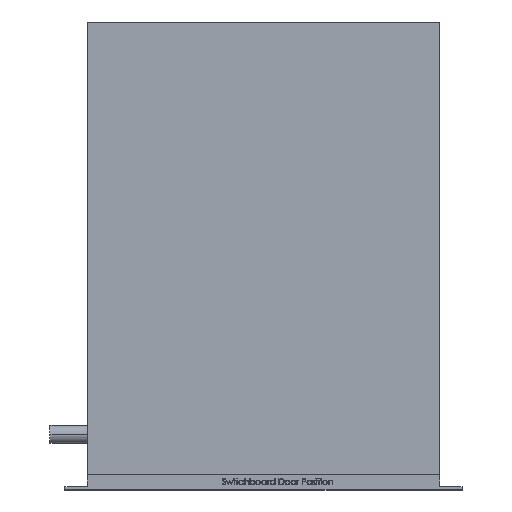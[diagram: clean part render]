
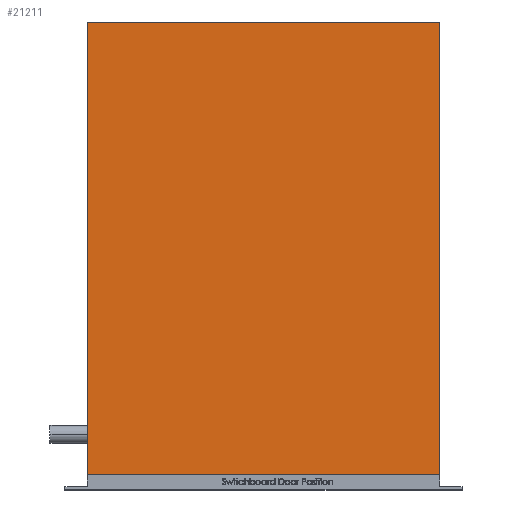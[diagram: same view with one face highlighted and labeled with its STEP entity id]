
A CAD part, top view. The second image highlights one B-rep face of the part: STEP entity #21211.
In plain terms, the highlighted planar face has unit normal (0, 0, 1).
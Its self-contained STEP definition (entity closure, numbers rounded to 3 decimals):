
#62 = EDGE_LOOP ( 'NONE', ( #18740, #28121, #24560, #20421 ) ) ;
#1344 = VERTEX_POINT ( 'NONE', #18428 ) ;
#2203 = CARTESIAN_POINT ( 'NONE',  ( 221.95, 10., 186.759 ) ) ;
#3191 = CARTESIAN_POINT ( 'NONE',  ( -28.05, 10., 186.759 ) ) ;
#3394 = DIRECTION ( 'NONE',  ( 1., 0., 0. ) ) ;
#4244 = VECTOR ( 'NONE', #3394, 1000. ) ;
#4774 = CARTESIAN_POINT ( 'NONE',  ( -28.05, 312., 186.759 ) ) ;
#9809 = CARTESIAN_POINT ( 'NONE',  ( 221.95, 312., 186.759 ) ) ;
#9896 = CARTESIAN_POINT ( 'NONE',  ( -13.05, 10., 186.759 ) ) ;
#12102 = VERTEX_POINT ( 'NONE', #9809 ) ;
#12636 = VECTOR ( 'NONE', #28061, 1000. ) ;
#12816 = AXIS2_PLACEMENT_3D ( 'NONE', #4774, #19907, #17932 ) ;
#14297 = EDGE_CURVE ( 'NONE', #28259, #30662, #29579, .T. ) ;
#15127 = EDGE_CURVE ( 'NONE', #30662, #1344, #25137, .T. ) ;
#17406 = PLANE ( 'NONE',  #12816 ) ;
#17932 = DIRECTION ( 'NONE',  ( -1., 0., 0. ) ) ;
#18428 = CARTESIAN_POINT ( 'NONE',  ( -13.05, 312., 186.759 ) ) ;
#18740 = ORIENTED_EDGE ( 'NONE', *, *, #19102, .F. ) ;
#19102 = EDGE_CURVE ( 'NONE', #1344, #12102, #30774, .T. ) ;
#19907 = DIRECTION ( 'NONE',  ( 0., 0., -1. ) ) ;
#20421 = ORIENTED_EDGE ( 'NONE', *, *, #22973, .T. ) ;
#21211 = ADVANCED_FACE ( 'NONE', ( #24805 ), #17406, .F. ) ;
#22003 = VECTOR ( 'NONE', #30538, 1000. ) ;
#22973 = EDGE_CURVE ( 'NONE', #28259, #12102, #25920, .T. ) ;
#23256 = CARTESIAN_POINT ( 'NONE',  ( -13.05, 2., 186.759 ) ) ;
#24560 = ORIENTED_EDGE ( 'NONE', *, *, #14297, .F. ) ;
#24805 = FACE_OUTER_BOUND ( 'NONE', #62, .T. ) ;
#25137 = LINE ( 'NONE', #23256, #12636 ) ;
#25920 = LINE ( 'NONE', #30424, #22003 ) ;
#26449 = VECTOR ( 'NONE', #27945, 1000. ) ;
#27945 = DIRECTION ( 'NONE',  ( -1., 0., 0. ) ) ;
#28061 = DIRECTION ( 'NONE',  ( 0., 1., 0. ) ) ;
#28121 = ORIENTED_EDGE ( 'NONE', *, *, #15127, .F. ) ;
#28259 = VERTEX_POINT ( 'NONE', #2203 ) ;
#29579 = LINE ( 'NONE', #3191, #26449 ) ;
#30424 = CARTESIAN_POINT ( 'NONE',  ( 221.95, 2., 186.759 ) ) ;
#30538 = DIRECTION ( 'NONE',  ( 0., 1., 0. ) ) ;
#30662 = VERTEX_POINT ( 'NONE', #9896 ) ;
#30669 = CARTESIAN_POINT ( 'NONE',  ( -28.05, 312., 186.759 ) ) ;
#30774 = LINE ( 'NONE', #30669, #4244 ) ;
